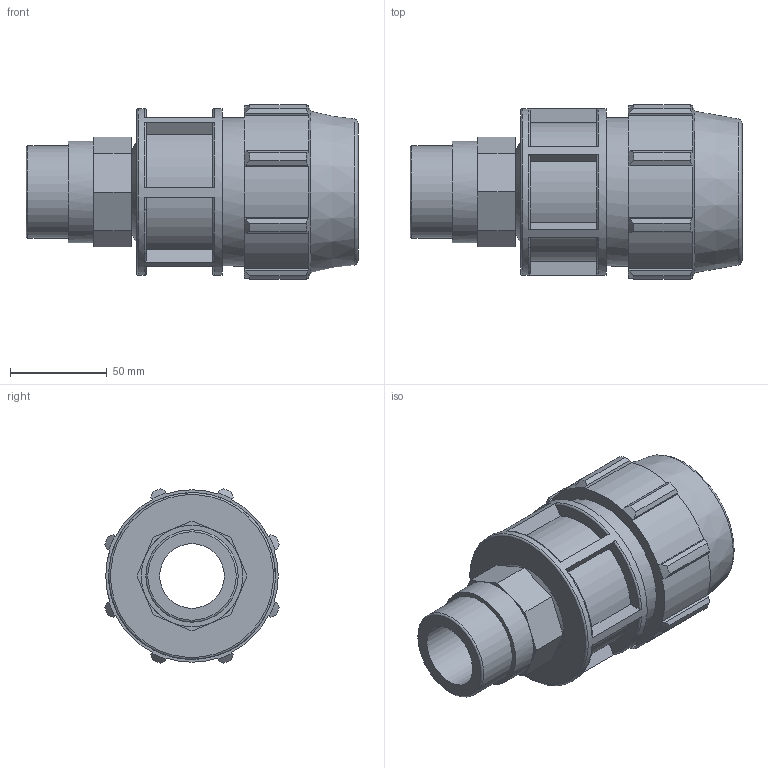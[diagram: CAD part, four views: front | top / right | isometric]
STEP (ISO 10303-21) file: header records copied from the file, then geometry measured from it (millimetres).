
FILE_DESCRIPTION(/* description */ ('PLASSON MALE ADAPTOR INTEGRAL BRASS THREAD 50-1.1/2"'),/* implementation_level */ '2;1');
FILE_NAME(/* name */ 'C:\Dropbox\KIMPROJECTS-Inventor\99-16-3568-Processing\Mechanical Fittings\07720\077200050015_187200050015_0772060500150A.ipt.stp',/* time_stamp */ '2017-06-06T17:44:00+03:00',/* author */ ('KIM'),/* organization */ (''),/* preprocessor_version */ 'ST-DEVELOPER v15.6',/* originating_system */ 'Autodesk Inventor 2015',/* authorisation */ '');
FILE_SCHEMA (('AUTOMOTIVE_DESIGN { 1 0 10303 214 3 1 1 }'));
Length unit declared in the file: millimetre
Products named in the file (1): 077200050015_187200050015_0772060500150A
Bounding box: 172 x 90.33 x 90.33 mm (x, y, z)
Volume: 442353.7 mm3; surface area: 83324.2 mm2
Topology: 1 solids, 1 shells, 137 faces, 355 edges, 232 vertices
Faces by surface type: plane 81, cylinder 28, torus 15, cone 13
Full cylindrical faces by diameter (mm): 33.462 x1, 47.803 x1, 50 x1, 52.583 x1, 76.8 x1, 86.4 x1
Entity records: 4381 total; most frequent: CARTESIAN_POINT 984, ORIENTED_EDGE 674, DIRECTION 662, EDGE_CURVE 337, AXIS2_PLACEMENT_3D 243, VERTEX_POINT 229, LINE 176, VECTOR 176
